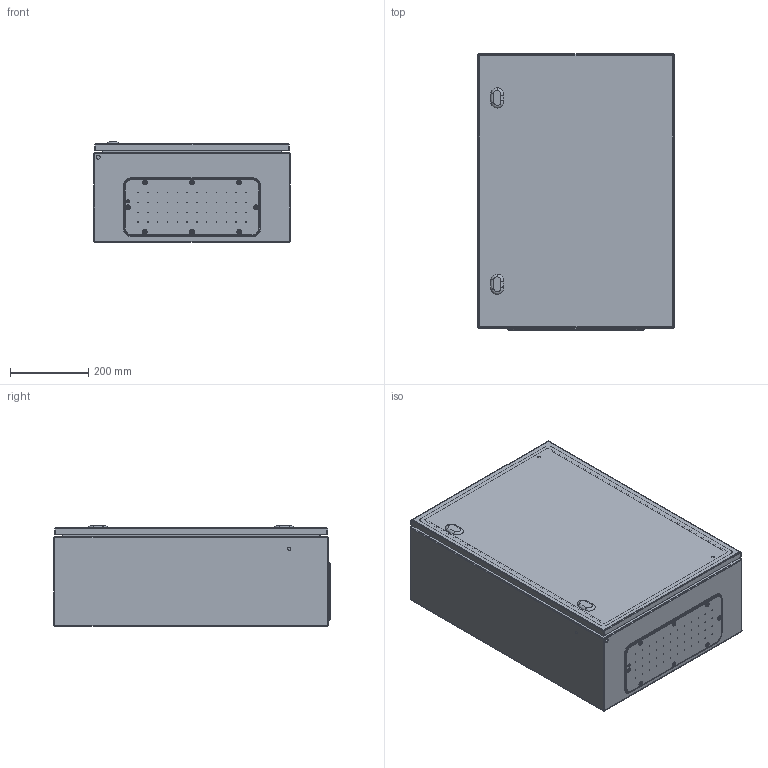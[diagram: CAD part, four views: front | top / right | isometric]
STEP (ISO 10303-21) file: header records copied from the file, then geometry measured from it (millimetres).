
FILE_DESCRIPTION (( 'STEP AP203' ), '1' );
FILE_NAME ('0500x0700x0250 dx.step', '2021-09-07T06:41:16', ( '' ), ( '' ), 'SwSTEP 2.0', 'SolidWorks 2021', '' );
FILE_SCHEMA (( 'CONFIG_CONTROL_DESIGN' ));
Length unit declared in the file: millimetre
Products named in the file (7): AR_ECOR_flangia IC_04; AR_ECOR_chiusura_std_STD; AR_ECOR_porta_singola_0500x0700; AR_ECOR_Piastra_13; AR_ECOR_montaggio_porta_singola_0500x0700; 0500x0700x0250 dx; AR_ECOR_involucro_0500x0700x0250
Assembly tree (7 placements, depth 3):
  0500x0700x0250 dx
    AR_ECOR_involucro_0500x0700x0250
    AR_ECOR_montaggio_porta_singola_0500x0700
      AR_ECOR_porta_singola_0500x0700
      AR_ECOR_chiusura_std_STD  x2
    AR_ECOR_flangia IC_04
    AR_ECOR_Piastra_13
Bounding box: 500 x 704 x 255 mm (x, y, z)
Volume: 2905056.3 mm3; surface area: 3464538.7 mm2
Topology: 6 solids, 6 shells, 817 faces, 2009 edges, 1262 vertices
Faces by surface type: cylinder 407, plane 260, cone 60, torus 46, bspline 28, sphere 16
Entity records: 25587 total; most frequent: CARTESIAN_POINT 5209, DIRECTION 4367, ORIENTED_EDGE 3900, EDGE_CURVE 1950, AXIS2_PLACEMENT_3D 1729, VERTEX_POINT 1236, EDGE_LOOP 1044, CIRCLE 945
